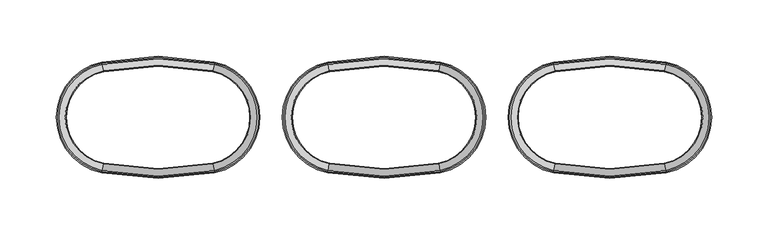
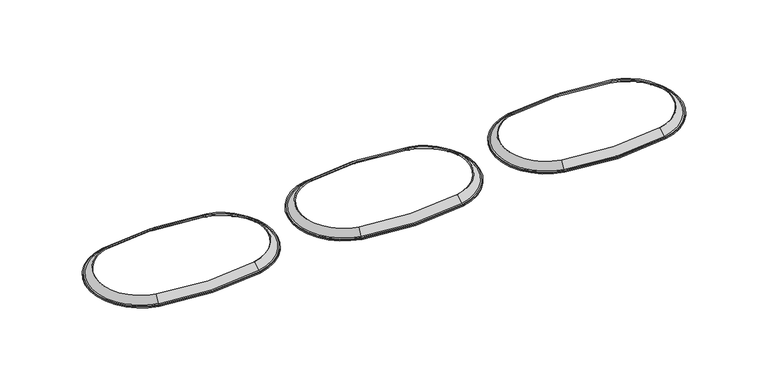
"""IFC4 building model written with IfcOpenShell, lengths in millimetres: proxy geometry, afs-LW-Track-150 : afs-LW-Track-150."""

from ifc_helpers import new_model, si_unit, point, frame, origin, place, context, project, spatial, polyline, circle_curve, ellipse_curve, trimmed, source, transform, mapped, element, save
from ifc_brep_helpers import plane_surface, cylinder_surface, revolved_surface, advanced_brep


def generic_models_b8dcf46f(model_context):
    return source(origin(), model_context, "Body", "AdvancedBrep", [
        advanced_brep(
        [(559.3576594, -46.3549295, 1.862006), (460.6423406, -46.3549295, 1.862006), (461.8277027, -40.4865309, 7.8489239), (558.1722973, -40.4865309, 7.8489239), (559.6338898, -47.7224696, 1.2), (460.3661102, -47.7224696, 1.2), (559.8939957, -49.0101813, 2.1883516), (460.1060043, -49.0101813, 2.1883516), (460.1060043, -49.0101813, 1.2), (559.8939957, -49.0101813, 1.2), (559.4941023, -47.0304204, 2.5870863), (460.5058977, -47.0304204, 2.5870863), (460.3153044, -47.9739947, 2.1883516), (559.6846956, -47.9739947, 2.1883516), (558.3122988, -41.1796395, 8.5560306), (461.6877012, -41.1796395, 8.5560306), (460.6423406, 46.3549295, 1.862006), (559.3576594, 46.3549295, 1.862006), (558.1722973, 40.4865309, 7.8489239), (461.8277027, 40.4865309, 7.8489239), (460.3661102, 47.7224696, 1.2), (559.6338898, 47.7224696, 1.2), (460.1060043, 49.0101813, 2.1883516), (559.8939957, 49.0101813, 2.1883516), (559.8939957, 49.0101813, 1.2), (460.1060043, 49.0101813, 1.2), (460.5058977, 47.0304204, 2.5870863), (559.4941023, 47.0304204, 2.5870863), (559.6846956, 47.9739947, 2.1883516), (460.3153044, 47.9739947, 2.1883516), (461.6877012, 41.1796395, 8.5560306), (558.3122988, 41.1796395, 8.5560306)],
        [
            (0, 1, circle_curve(frame((510.0, 198.0011326, 1.862006), z_axis=(0.0, 0.0, -1.0), x_axis=(-0.1979920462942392, -0.9802036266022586, 0.0)), 249.2911222)),
            (1, 2),
            (2, 3, circle_curve(frame((510.0, 198.0011326, 7.8489239), z_axis=(0.0, 0.0, 1.0), x_axis=(-0.1979920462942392, -0.9802036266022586, 0.0)), 243.3042043)),
            (3, 0),
            (4, 5, circle_curve(frame((510.0, 198.0011326, 1.2), z_axis=(0.0, 0.0, -1.0), x_axis=(-0.1979920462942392, -0.9802036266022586, 0.0)), 250.6862814)),
            (5, 1, circle_curve(frame((460.3203371, -47.9490794, 3.4883516), z_axis=(0.9802036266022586, -0.1979920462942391, 0.0), x_axis=(0.1979920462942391, 0.9802036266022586, 0.0)), 2.3)),
            (0, 4, circle_curve(frame((559.6796629, -47.9490794, 3.4883516), z_axis=(-0.9802036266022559, -0.19799204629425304, 0.0), x_axis=(-0.19799204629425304, 0.9802036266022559, 0.0)), 2.3)),
            (6, 7, circle_curve(frame((510.0, 198.0011326, 2.1883516), z_axis=(0.0, 0.0, -1.0), x_axis=(-0.1979920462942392, -0.9802036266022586, 0.0)), 252.0)),
            (7, 8),
            (8, 9, circle_curve(frame((510.0, 198.0011326, 1.2), z_axis=(0.0, 0.0, 1.0), x_axis=(-0.1979920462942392, -0.9802036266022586, 0.0)), 252.0)),
            (9, 6),
            (10, 11, circle_curve(frame((510.0, 198.0011326, 2.5870863), z_axis=(0.0, 0.0, -1.0), x_axis=(-0.1979920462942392, -0.9802036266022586, 0.0)), 249.9802554)),
            (11, 12, circle_curve(frame((460.3153044, -47.9739947, 3.5497172), z_axis=(-0.9802036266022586, 0.1979920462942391, 0.0), x_axis=(0.1979920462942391, 0.9802036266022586, 0.0)), 1.3613657)),
            (12, 13, circle_curve(frame((510.0, 198.0011326, 2.1883516), z_axis=(0.0, 0.0, 1.0), x_axis=(-0.1979920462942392, -0.9802036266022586, 0.0)), 250.9428863)),
            (13, 10, circle_curve(frame((559.6846956, -47.9739947, 3.5497172), z_axis=(0.9802036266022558, 0.197992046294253, 0.0), x_axis=(-0.197992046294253, 0.9802036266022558, 0.0)), 1.3613657)),
            (14, 15, circle_curve(frame((510.0, 198.0011326, 8.5560306), z_axis=(0.0, 0.0, -1.0), x_axis=(-0.1979920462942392, -0.9802036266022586, 0.0)), 244.0113111)),
            (15, 11),
            (10, 14),
            (2, 15),
            (14, 3),
            (16, 17, circle_curve(frame((510.0, -198.0011326, 1.862006), z_axis=(0.0, 0.0, -1.0), x_axis=(0.1979920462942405, 0.9802036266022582, 0.0)), 249.2911222)),
            (17, 18),
            (18, 19, circle_curve(frame((510.0, -198.0011326, 7.8489239), z_axis=(0.0, 0.0, 1.0), x_axis=(0.1979920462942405, 0.9802036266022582, 0.0)), 243.3042043)),
            (19, 16),
            (20, 21, circle_curve(frame((510.0, -198.0011326, 1.2), z_axis=(0.0, 0.0, -1.0), x_axis=(0.1979920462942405, 0.9802036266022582, 0.0)), 250.6862814)),
            (21, 17, circle_curve(frame((559.6796629, 47.9490794, 3.4883516), z_axis=(-0.9802036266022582, 0.19799204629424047, 0.0), x_axis=(-0.19799204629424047, -0.9802036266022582, 0.0)), 2.3)),
            (16, 20, circle_curve(frame((460.3203371, 47.9490794, 3.4883516), z_axis=(0.9802036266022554, 0.1979920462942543, 0.0), x_axis=(0.1979920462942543, -0.9802036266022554, 0.0)), 2.3)),
            (22, 23, circle_curve(frame((510.0, -198.0011326, 2.1883516), z_axis=(0.0, 0.0, -1.0), x_axis=(0.1979920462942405, 0.9802036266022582, 0.0)), 252.0)),
            (23, 24),
            (24, 25, circle_curve(frame((510.0, -198.0011326, 1.2), z_axis=(0.0, 0.0, 1.0), x_axis=(0.1979920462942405, 0.9802036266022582, 0.0)), 252.0)),
            (25, 22),
            (26, 27, circle_curve(frame((510.0, -198.0011326, 2.5870863), z_axis=(0.0, 0.0, -1.0), x_axis=(0.1979920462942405, 0.9802036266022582, 0.0)), 249.9802554)),
            (27, 28, circle_curve(frame((559.6846956, 47.9739947, 3.5497172), z_axis=(0.9802036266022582, -0.19799204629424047, 0.0), x_axis=(-0.19799204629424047, -0.9802036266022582, 0.0)), 1.3613657)),
            (28, 29, circle_curve(frame((510.0, -198.0011326, 2.1883516), z_axis=(0.0, 0.0, 1.0), x_axis=(0.1979920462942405, 0.9802036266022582, 0.0)), 250.9428863)),
            (29, 26, circle_curve(frame((460.3153044, 47.9739947, 3.5497172), z_axis=(-0.9802036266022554, -0.19799204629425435, 0.0), x_axis=(0.19799204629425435, -0.9802036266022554, 0.0)), 1.3613657)),
            (30, 31, circle_curve(frame((510.0, -198.0011326, 8.5560306), z_axis=(0.0, 0.0, -1.0), x_axis=(0.1979920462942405, 0.9802036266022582, 0.0)), 244.0113111)),
            (31, 27),
            (26, 30),
            (18, 31),
            (30, 19),
            (1, 16, circle_curve(frame((470.0056066, 0.0, 1.862006), z_axis=(0.0, 0.0, -1.0), x_axis=(-0.19799204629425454, 0.9802036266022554, 0.0)), 47.2911222)),
            (19, 2, circle_curve(frame((470.0056066, 0.0, 7.8489239), z_axis=(0.0, 0.0, 1.0), x_axis=(-0.19799204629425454, 0.9802036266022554, 0.0)), 41.3042043)),
            (5, 20, circle_curve(frame((470.0056066, 0.0, 1.2), z_axis=(0.0, 0.0, -1.0), x_axis=(-0.19799204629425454, 0.9802036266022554, 0.0)), 48.6862814)),
            (7, 22, circle_curve(frame((470.0056066, 0.0, 2.1883516), z_axis=(0.0, 0.0, -1.0), x_axis=(-0.19799204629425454, 0.9802036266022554, 0.0)), 50.0)),
            (25, 8, circle_curve(frame((470.0056066, 0.0, 1.2), z_axis=(0.0, 0.0, 1.0), x_axis=(-0.19799204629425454, 0.9802036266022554, 0.0)), 50.0)),
            (11, 26, circle_curve(frame((470.0056066, 0.0, 2.5870863), z_axis=(0.0, 0.0, -1.0), x_axis=(-0.19799204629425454, 0.9802036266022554, 0.0)), 47.9802554)),
            (29, 12, circle_curve(frame((470.0056066, 0.0, 2.1883516), z_axis=(0.0, 0.0, 1.0), x_axis=(-0.19799204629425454, 0.9802036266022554, 0.0)), 48.9428863)),
            (15, 30, circle_curve(frame((470.0056066, 0.0, 8.5560306), z_axis=(0.0, 0.0, -1.0), x_axis=(-0.19799204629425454, 0.9802036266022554, 0.0)), 42.0113111)),
            (17, 0, circle_curve(frame((549.9943934, 0.0, 1.862006), z_axis=(0.0, 0.0, -1.0), x_axis=(0.19799204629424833, -0.9802036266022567, 0.0)), 47.2911222)),
            (3, 18, circle_curve(frame((549.9943934, 0.0, 7.8489239), z_axis=(0.0, 0.0, 1.0), x_axis=(0.19799204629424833, -0.9802036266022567, 0.0)), 41.3042043)),
            (21, 4, circle_curve(frame((549.9943934, 0.0, 1.2), z_axis=(0.0, 0.0, -1.0), x_axis=(0.19799204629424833, -0.9802036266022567, 0.0)), 48.6862814)),
            (24, 9, circle_curve(frame((549.9943934, 0.0, 1.2), z_axis=(0.0, 0.0, -1.0), x_axis=(0.19799204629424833, -0.9802036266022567, 0.0)), 50.0)),
            (23, 6, circle_curve(frame((549.9943934, 0.0, 2.1883516), z_axis=(0.0, 0.0, -1.0), x_axis=(0.19799204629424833, -0.9802036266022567, 0.0)), 50.0)),
            (28, 13, circle_curve(frame((549.9943934, 0.0, 2.1883516), z_axis=(0.0, 0.0, -1.0), x_axis=(0.19799204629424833, -0.9802036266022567, 0.0)), 48.9428863)),
            (27, 10, circle_curve(frame((549.9943934, 0.0, 2.5870863), z_axis=(0.0, 0.0, -1.0), x_axis=(0.19799204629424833, -0.9802036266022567, 0.0)), 47.9802554)),
            (31, 14, circle_curve(frame((549.9943934, 0.0, 8.5560306), z_axis=(0.0, 0.0, -1.0), x_axis=(0.19799204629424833, -0.9802036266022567, 0.0)), 42.0113111)),
        ],
        [
            revolved_surface(polyline([(461.8277027, -40.4865309, 7.8489239), (460.6423406, -46.3549295, 1.862006)]), (510.0, 198.0011326, 1.2), (0.0, 0.0, 1.0)),
            revolved_surface(trimmed(ellipse_curve(frame((460.3203371, -47.9490794, 3.4883516), z_axis=(-0.9802036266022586, 0.1979920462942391, 0.0), x_axis=(0.1979920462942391, 0.9802036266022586, 0.0)), 2.3, 2.3), [point((460.6423406, -46.3549295, 1.862006))], [point((460.3661102, -47.7224696, 1.2))], True, "CARTESIAN"), (510.0, 198.0011326, 1.2), (0.0, 0.0, 1.0)),
            cylinder_surface(frame((510.0, 198.0011326, 1.2), z_axis=(0.0, 0.0, 1.0), x_axis=(-0.1979920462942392, -0.9802036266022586, 0.0)), 252.0),
            revolved_surface(trimmed(ellipse_curve(frame((460.3153044, -47.9739947, 3.5497172), z_axis=(0.9802036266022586, -0.1979920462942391, 0.0), x_axis=(0.1979920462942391, 0.9802036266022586, 0.0)), 1.3613657, 1.3613657), [point((460.3153044, -47.9739947, 2.1883516))], [point((460.5058977, -47.0304204, 2.5870863))], True, "CARTESIAN"), (510.0, 198.0011326, 1.2), (0.0, 0.0, 1.0)),
            revolved_surface(polyline([(460.5058977, -47.0304204, 2.5870863), (461.6877012, -41.1796395, 8.5560306)]), (510.0, 198.0011326, 1.2), (0.0, 0.0, 1.0)),
            revolved_surface(polyline([(461.6877012, -41.1796395, 8.5560306), (461.8277027, -40.4865309, 7.8489239)]), (510.0, 198.0011326, 1.2), (0.0, 0.0, 1.0)),
            revolved_surface(polyline([(558.1722973, 40.4865309, 7.8489239), (559.3576594, 46.3549295, 1.862006)]), (510.0, -198.0011326, 1.2), (0.0, 0.0, 1.0)),
            revolved_surface(trimmed(ellipse_curve(frame((559.6796629, 47.9490794, 3.4883516), z_axis=(0.9802036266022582, -0.19799204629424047, 0.0), x_axis=(-0.19799204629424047, -0.9802036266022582, 0.0)), 2.3, 2.3), [point((559.3576594, 46.3549295, 1.862006))], [point((559.6338898, 47.7224696, 1.2))], True, "CARTESIAN"), (510.0, -198.0011326, 1.2), (0.0, 0.0, 1.0)),
            cylinder_surface(frame((510.0, -198.0011326, 1.2), z_axis=(0.0, 0.0, 1.0), x_axis=(0.1979920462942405, 0.9802036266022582, 0.0)), 252.0),
            revolved_surface(trimmed(ellipse_curve(frame((559.6846956, 47.9739947, 3.5497172), z_axis=(-0.9802036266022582, 0.19799204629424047, 0.0), x_axis=(-0.19799204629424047, -0.9802036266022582, 0.0)), 1.3613657, 1.3613657), [point((559.6846956, 47.9739947, 2.1883516))], [point((559.4941023, 47.0304204, 2.5870863))], True, "CARTESIAN"), (510.0, -198.0011326, 1.2), (0.0, 0.0, 1.0)),
            revolved_surface(polyline([(559.4941023, 47.0304204, 2.5870863), (558.3122988, 41.1796395, 8.5560306)]), (510.0, -198.0011326, 1.2), (0.0, 0.0, 1.0)),
            revolved_surface(polyline([(558.3122988, 41.1796395, 8.5560306), (558.1722973, 40.4865309, 7.8489239)]), (510.0, -198.0011326, 1.2), (0.0, 0.0, 1.0)),
            revolved_surface(polyline([(461.8277027, 40.4865309, 7.8489239), (460.6423406, 46.3549295, 1.862006)]), (470.0056066, 0.0, 1.2), (0.0, 0.0, 1.0)),
            revolved_surface(trimmed(ellipse_curve(frame((460.3203371, 47.9490794, 3.4883516), z_axis=(0.9802036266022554, 0.19799204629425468, 0.0), x_axis=(0.19799204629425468, -0.9802036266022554, 0.0)), 2.3, 2.3), [point((460.6423406, 46.3549295, 1.862006))], [point((460.3661102, 47.7224696, 1.2))], True, "CARTESIAN"), (470.0056066, 0.0, 1.2), (0.0, 0.0, 1.0)),
            cylinder_surface(frame((470.0056066, 0.0, 1.2), z_axis=(0.0, 0.0, 1.0), x_axis=(-0.19799204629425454, 0.9802036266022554, 0.0)), 50.0),
            revolved_surface(trimmed(ellipse_curve(frame((460.3153044, 47.9739947, 3.5497172), z_axis=(-0.9802036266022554, -0.19799204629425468, 0.0), x_axis=(0.19799204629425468, -0.9802036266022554, 0.0)), 1.3613657, 1.3613657), [point((460.3153044, 47.9739947, 2.1883516))], [point((460.5058977, 47.0304204, 2.5870863))], True, "CARTESIAN"), (470.0056066, 0.0, 1.2), (0.0, 0.0, 1.0)),
            revolved_surface(polyline([(460.5058977, 47.0304204, 2.5870863), (461.6877012, 41.1796395, 8.5560306)]), (470.0056066, 0.0, 1.2), (0.0, 0.0, 1.0)),
            revolved_surface(polyline([(461.6877012, 41.1796395, 8.5560306), (461.8277027, 40.4865309, 7.8489239)]), (470.0056066, 0.0, 1.2), (0.0, 0.0, 1.0)),
            revolved_surface(polyline([(558.1722973, -40.4865309, 7.8489239), (559.3576594, -46.3549295, 1.862006)]), (549.9943934, 0.0, 1.2), (0.0, 0.0, 1.0)),
            revolved_surface(trimmed(ellipse_curve(frame((559.6796629, -47.9490794, 3.4883516), z_axis=(-0.9802036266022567, -0.1979920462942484, 0.0), x_axis=(-0.1979920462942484, 0.9802036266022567, 0.0)), 2.3, 2.3), [point((559.3576594, -46.3549295, 1.862006))], [point((559.6338898, -47.7224696, 1.2))], True, "CARTESIAN"), (549.9943934, 0.0, 1.2), (0.0, 0.0, 1.0)),
            plane_surface(frame((549.9943934, 0.0, 1.2), z_axis=(0.0, 0.0, -1.0), x_axis=(0.19799204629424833, -0.9802036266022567, 0.0))),
            cylinder_surface(frame((549.9943934, 0.0, 1.2), z_axis=(0.0, 0.0, 1.0), x_axis=(0.19799204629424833, -0.9802036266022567, 0.0)), 50.0),
            plane_surface(frame((549.9943934, 0.0, 2.1883516), z_axis=(0.0, 0.0, 1.0), x_axis=(0.19799204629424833, -0.9802036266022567, 0.0))),
            revolved_surface(trimmed(ellipse_curve(frame((559.6846956, -47.9739947, 3.5497172), z_axis=(0.9802036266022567, 0.1979920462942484, 0.0), x_axis=(-0.1979920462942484, 0.9802036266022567, 0.0)), 1.3613657, 1.3613657), [point((559.6846956, -47.9739947, 2.1883516))], [point((559.4941023, -47.0304204, 2.5870863))], True, "CARTESIAN"), (549.9943934, 0.0, 1.2), (0.0, 0.0, 1.0)),
            revolved_surface(polyline([(559.4941023, -47.0304204, 2.5870863), (558.3122988, -41.1796395, 8.5560306)]), (549.9943934, 0.0, 1.2), (0.0, 0.0, 1.0)),
            revolved_surface(polyline([(558.3122988, -41.1796395, 8.5560306), (558.1722973, -40.4865309, 7.8489239)]), (549.9943934, 0.0, 1.2), (0.0, 0.0, 1.0)),
        ],
        [
            (0, [[1, 2, 3, 4]]),
            (1, [[5, 6, -1, 7]]),
            (2, [[8, 9, 10, 11]]),
            (3, [[12, 13, 14, 15]]),
            (4, [[16, 17, -12, 18]]),
            (5, [[-3, 19, -16, 20]]),
            (6, [[21, 22, 23, 24]]),
            (7, [[25, 26, -21, 27]]),
            (8, [[28, 29, 30, 31]]),
            (9, [[32, 33, 34, 35]]),
            (10, [[36, 37, -32, 38]]),
            (11, [[-23, 39, -36, 40]]),
            (12, [[41, -24, 42, -2]]),
            (13, [[43, -27, -41, -6]]),
            (14, [[44, -31, 45, -9]]),
            (15, [[46, -35, 47, -13]]),
            (16, [[48, -38, -46, -17]]),
            (17, [[-42, -40, -48, -19]]),
            (18, [[49, -4, 50, -22]]),
            (19, [[51, -7, -49, -26]]),
            (20, [[52, -10, -45, -30], [-25, -43, -5, -51]]),
            (21, [[53, -11, -52, -29]]),
            (22, [[-28, -44, -8, -53], [54, -14, -47, -34]]),
            (23, [[55, -15, -54, -33]]),
            (24, [[56, -18, -55, -37]]),
            (25, [[-50, -20, -56, -39]]),
        ],
    ),
        advanced_brep(
        [(359.3576594, -46.3549295, 1.862006), (260.6423406, -46.3549295, 1.862006), (261.8277027, -40.4865309, 7.8489239), (358.1722973, -40.4865309, 7.8489239), (359.6338898, -47.7224696, 1.2), (260.3661102, -47.7224696, 1.2), (359.8939957, -49.0101813, 2.1883516), (260.1060043, -49.0101813, 2.1883516), (260.1060043, -49.0101813, 1.2), (359.8939957, -49.0101813, 1.2), (359.4941023, -47.0304204, 2.5870863), (260.5058977, -47.0304204, 2.5870863), (260.3153044, -47.9739947, 2.1883516), (359.6846956, -47.9739947, 2.1883516), (358.3122988, -41.1796395, 8.5560306), (261.6877012, -41.1796395, 8.5560306), (260.6423406, 46.3549295, 1.862006), (359.3576594, 46.3549295, 1.862006), (358.1722973, 40.4865309, 7.8489239), (261.8277027, 40.4865309, 7.8489239), (260.3661102, 47.7224696, 1.2), (359.6338898, 47.7224696, 1.2), (260.1060043, 49.0101813, 2.1883516), (359.8939957, 49.0101813, 2.1883516), (359.8939957, 49.0101813, 1.2), (260.1060043, 49.0101813, 1.2), (260.5058977, 47.0304204, 2.5870863), (359.4941023, 47.0304204, 2.5870863), (359.6846956, 47.9739947, 2.1883516), (260.3153044, 47.9739947, 2.1883516), (261.6877012, 41.1796395, 8.5560306), (358.3122988, 41.1796395, 8.5560306)],
        [
            (0, 1, circle_curve(frame((310.0, 198.0011326, 1.862006), z_axis=(0.0, 0.0, -1.0), x_axis=(-0.1979920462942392, -0.9802036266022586, 0.0)), 249.2911222)),
            (1, 2),
            (2, 3, circle_curve(frame((310.0, 198.0011326, 7.8489239), z_axis=(0.0, 0.0, 1.0), x_axis=(-0.1979920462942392, -0.9802036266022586, 0.0)), 243.3042043)),
            (3, 0),
            (4, 5, circle_curve(frame((310.0, 198.0011326, 1.2), z_axis=(0.0, 0.0, -1.0), x_axis=(-0.1979920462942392, -0.9802036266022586, 0.0)), 250.6862814)),
            (5, 1, circle_curve(frame((260.3203371, -47.9490794, 3.4883516), z_axis=(0.9802036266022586, -0.1979920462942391, 0.0), x_axis=(0.1979920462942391, 0.9802036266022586, 0.0)), 2.3)),
            (0, 4, circle_curve(frame((359.6796629, -47.9490794, 3.4883516), z_axis=(-0.9802036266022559, -0.19799204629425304, 0.0), x_axis=(-0.19799204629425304, 0.9802036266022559, 0.0)), 2.3)),
            (6, 7, circle_curve(frame((310.0, 198.0011326, 2.1883516), z_axis=(0.0, 0.0, -1.0), x_axis=(-0.1979920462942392, -0.9802036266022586, 0.0)), 252.0)),
            (7, 8),
            (8, 9, circle_curve(frame((310.0, 198.0011326, 1.2), z_axis=(0.0, 0.0, 1.0), x_axis=(-0.1979920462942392, -0.9802036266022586, 0.0)), 252.0)),
            (9, 6),
            (10, 11, circle_curve(frame((310.0, 198.0011326, 2.5870863), z_axis=(0.0, 0.0, -1.0), x_axis=(-0.1979920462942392, -0.9802036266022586, 0.0)), 249.9802554)),
            (11, 12, circle_curve(frame((260.3153044, -47.9739947, 3.5497172), z_axis=(-0.9802036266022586, 0.1979920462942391, 0.0), x_axis=(0.1979920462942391, 0.9802036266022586, 0.0)), 1.3613657)),
            (12, 13, circle_curve(frame((310.0, 198.0011326, 2.1883516), z_axis=(0.0, 0.0, 1.0), x_axis=(-0.1979920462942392, -0.9802036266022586, 0.0)), 250.9428863)),
            (13, 10, circle_curve(frame((359.6846956, -47.9739947, 3.5497172), z_axis=(0.9802036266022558, 0.197992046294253, 0.0), x_axis=(-0.197992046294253, 0.9802036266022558, 0.0)), 1.3613657)),
            (14, 15, circle_curve(frame((310.0, 198.0011326, 8.5560306), z_axis=(0.0, 0.0, -1.0), x_axis=(-0.1979920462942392, -0.9802036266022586, 0.0)), 244.0113111)),
            (15, 11),
            (10, 14),
            (2, 15),
            (14, 3),
            (16, 17, circle_curve(frame((310.0, -198.0011326, 1.862006), z_axis=(0.0, 0.0, -1.0), x_axis=(0.1979920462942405, 0.9802036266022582, 0.0)), 249.2911222)),
            (17, 18),
            (18, 19, circle_curve(frame((310.0, -198.0011326, 7.8489239), z_axis=(0.0, 0.0, 1.0), x_axis=(0.1979920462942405, 0.9802036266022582, 0.0)), 243.3042043)),
            (19, 16),
            (20, 21, circle_curve(frame((310.0, -198.0011326, 1.2), z_axis=(0.0, 0.0, -1.0), x_axis=(0.1979920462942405, 0.9802036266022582, 0.0)), 250.6862814)),
            (21, 17, circle_curve(frame((359.6796629, 47.9490794, 3.4883516), z_axis=(-0.9802036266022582, 0.19799204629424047, 0.0), x_axis=(-0.19799204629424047, -0.9802036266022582, 0.0)), 2.3)),
            (16, 20, circle_curve(frame((260.3203371, 47.9490794, 3.4883516), z_axis=(0.9802036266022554, 0.1979920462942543, 0.0), x_axis=(0.1979920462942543, -0.9802036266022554, 0.0)), 2.3)),
            (22, 23, circle_curve(frame((310.0, -198.0011326, 2.1883516), z_axis=(0.0, 0.0, -1.0), x_axis=(0.1979920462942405, 0.9802036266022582, 0.0)), 252.0)),
            (23, 24),
            (24, 25, circle_curve(frame((310.0, -198.0011326, 1.2), z_axis=(0.0, 0.0, 1.0), x_axis=(0.1979920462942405, 0.9802036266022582, 0.0)), 252.0)),
            (25, 22),
            (26, 27, circle_curve(frame((310.0, -198.0011326, 2.5870863), z_axis=(0.0, 0.0, -1.0), x_axis=(0.1979920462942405, 0.9802036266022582, 0.0)), 249.9802554)),
            (27, 28, circle_curve(frame((359.6846956, 47.9739947, 3.5497172), z_axis=(0.9802036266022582, -0.19799204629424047, 0.0), x_axis=(-0.19799204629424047, -0.9802036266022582, 0.0)), 1.3613657)),
            (28, 29, circle_curve(frame((310.0, -198.0011326, 2.1883516), z_axis=(0.0, 0.0, 1.0), x_axis=(0.1979920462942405, 0.9802036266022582, 0.0)), 250.9428863)),
            (29, 26, circle_curve(frame((260.3153044, 47.9739947, 3.5497172), z_axis=(-0.9802036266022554, -0.19799204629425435, 0.0), x_axis=(0.19799204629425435, -0.9802036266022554, 0.0)), 1.3613657)),
            (30, 31, circle_curve(frame((310.0, -198.0011326, 8.5560306), z_axis=(0.0, 0.0, -1.0), x_axis=(0.1979920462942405, 0.9802036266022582, 0.0)), 244.0113111)),
            (31, 27),
            (26, 30),
            (18, 31),
            (30, 19),
            (1, 16, circle_curve(frame((270.0056066, 0.0, 1.862006), z_axis=(0.0, 0.0, -1.0), x_axis=(-0.19799204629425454, 0.9802036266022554, 0.0)), 47.2911222)),
            (19, 2, circle_curve(frame((270.0056066, 0.0, 7.8489239), z_axis=(0.0, 0.0, 1.0), x_axis=(-0.19799204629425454, 0.9802036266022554, 0.0)), 41.3042043)),
            (5, 20, circle_curve(frame((270.0056066, 0.0, 1.2), z_axis=(0.0, 0.0, -1.0), x_axis=(-0.19799204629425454, 0.9802036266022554, 0.0)), 48.6862814)),
            (7, 22, circle_curve(frame((270.0056066, 0.0, 2.1883516), z_axis=(0.0, 0.0, -1.0), x_axis=(-0.19799204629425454, 0.9802036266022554, 0.0)), 50.0)),
            (25, 8, circle_curve(frame((270.0056066, 0.0, 1.2), z_axis=(0.0, 0.0, 1.0), x_axis=(-0.19799204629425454, 0.9802036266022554, 0.0)), 50.0)),
            (11, 26, circle_curve(frame((270.0056066, 0.0, 2.5870863), z_axis=(0.0, 0.0, -1.0), x_axis=(-0.19799204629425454, 0.9802036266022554, 0.0)), 47.9802554)),
            (29, 12, circle_curve(frame((270.0056066, 0.0, 2.1883516), z_axis=(0.0, 0.0, 1.0), x_axis=(-0.19799204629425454, 0.9802036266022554, 0.0)), 48.9428863)),
            (15, 30, circle_curve(frame((270.0056066, 0.0, 8.5560306), z_axis=(0.0, 0.0, -1.0), x_axis=(-0.19799204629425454, 0.9802036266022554, 0.0)), 42.0113111)),
            (17, 0, circle_curve(frame((349.9943934, 0.0, 1.862006), z_axis=(0.0, 0.0, -1.0), x_axis=(0.19799204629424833, -0.9802036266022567, 0.0)), 47.2911222)),
            (3, 18, circle_curve(frame((349.9943934, 0.0, 7.8489239), z_axis=(0.0, 0.0, 1.0), x_axis=(0.19799204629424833, -0.9802036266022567, 0.0)), 41.3042043)),
            (21, 4, circle_curve(frame((349.9943934, 0.0, 1.2), z_axis=(0.0, 0.0, -1.0), x_axis=(0.19799204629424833, -0.9802036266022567, 0.0)), 48.6862814)),
            (24, 9, circle_curve(frame((349.9943934, 0.0, 1.2), z_axis=(0.0, 0.0, -1.0), x_axis=(0.19799204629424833, -0.9802036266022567, 0.0)), 50.0)),
            (23, 6, circle_curve(frame((349.9943934, 0.0, 2.1883516), z_axis=(0.0, 0.0, -1.0), x_axis=(0.19799204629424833, -0.9802036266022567, 0.0)), 50.0)),
            (28, 13, circle_curve(frame((349.9943934, 0.0, 2.1883516), z_axis=(0.0, 0.0, -1.0), x_axis=(0.19799204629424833, -0.9802036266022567, 0.0)), 48.9428863)),
            (27, 10, circle_curve(frame((349.9943934, 0.0, 2.5870863), z_axis=(0.0, 0.0, -1.0), x_axis=(0.19799204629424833, -0.9802036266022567, 0.0)), 47.9802554)),
            (31, 14, circle_curve(frame((349.9943934, 0.0, 8.5560306), z_axis=(0.0, 0.0, -1.0), x_axis=(0.19799204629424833, -0.9802036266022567, 0.0)), 42.0113111)),
        ],
        [
            revolved_surface(polyline([(261.8277027, -40.4865309, 7.8489239), (260.6423406, -46.3549295, 1.862006)]), (310.0, 198.0011326, 1.2), (0.0, 0.0, 1.0)),
            revolved_surface(trimmed(ellipse_curve(frame((260.3203371, -47.9490794, 3.4883516), z_axis=(-0.9802036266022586, 0.1979920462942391, 0.0), x_axis=(0.1979920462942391, 0.9802036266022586, 0.0)), 2.3, 2.3), [point((260.6423406, -46.3549295, 1.862006))], [point((260.3661102, -47.7224696, 1.2))], True, "CARTESIAN"), (310.0, 198.0011326, 1.2), (0.0, 0.0, 1.0)),
            cylinder_surface(frame((310.0, 198.0011326, 1.2), z_axis=(0.0, 0.0, 1.0), x_axis=(-0.1979920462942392, -0.9802036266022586, 0.0)), 252.0),
            revolved_surface(trimmed(ellipse_curve(frame((260.3153044, -47.9739947, 3.5497172), z_axis=(0.9802036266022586, -0.1979920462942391, 0.0), x_axis=(0.1979920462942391, 0.9802036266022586, 0.0)), 1.3613657, 1.3613657), [point((260.3153044, -47.9739947, 2.1883516))], [point((260.5058977, -47.0304204, 2.5870863))], True, "CARTESIAN"), (310.0, 198.0011326, 1.2), (0.0, 0.0, 1.0)),
            revolved_surface(polyline([(260.5058977, -47.0304204, 2.5870863), (261.6877012, -41.1796395, 8.5560306)]), (310.0, 198.0011326, 1.2), (0.0, 0.0, 1.0)),
            revolved_surface(polyline([(261.6877012, -41.1796395, 8.5560306), (261.8277027, -40.4865309, 7.8489239)]), (310.0, 198.0011326, 1.2), (0.0, 0.0, 1.0)),
            revolved_surface(polyline([(358.1722973, 40.4865309, 7.8489239), (359.3576594, 46.3549295, 1.862006)]), (310.0, -198.0011326, 1.2), (0.0, 0.0, 1.0)),
            revolved_surface(trimmed(ellipse_curve(frame((359.6796629, 47.9490794, 3.4883516), z_axis=(0.9802036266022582, -0.19799204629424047, 0.0), x_axis=(-0.19799204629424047, -0.9802036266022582, 0.0)), 2.3, 2.3), [point((359.3576594, 46.3549295, 1.862006))], [point((359.6338898, 47.7224696, 1.2))], True, "CARTESIAN"), (310.0, -198.0011326, 1.2), (0.0, 0.0, 1.0)),
            cylinder_surface(frame((310.0, -198.0011326, 1.2), z_axis=(0.0, 0.0, 1.0), x_axis=(0.1979920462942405, 0.9802036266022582, 0.0)), 252.0),
            revolved_surface(trimmed(ellipse_curve(frame((359.6846956, 47.9739947, 3.5497172), z_axis=(-0.9802036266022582, 0.19799204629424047, 0.0), x_axis=(-0.19799204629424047, -0.9802036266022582, 0.0)), 1.3613657, 1.3613657), [point((359.6846956, 47.9739947, 2.1883516))], [point((359.4941023, 47.0304204, 2.5870863))], True, "CARTESIAN"), (310.0, -198.0011326, 1.2), (0.0, 0.0, 1.0)),
            revolved_surface(polyline([(359.4941023, 47.0304204, 2.5870863), (358.3122988, 41.1796395, 8.5560306)]), (310.0, -198.0011326, 1.2), (0.0, 0.0, 1.0)),
            revolved_surface(polyline([(358.3122988, 41.1796395, 8.5560306), (358.1722973, 40.4865309, 7.8489239)]), (310.0, -198.0011326, 1.2), (0.0, 0.0, 1.0)),
            revolved_surface(polyline([(261.8277027, 40.4865309, 7.8489239), (260.6423406, 46.3549295, 1.862006)]), (270.0056066, 0.0, 1.2), (0.0, 0.0, 1.0)),
            revolved_surface(trimmed(ellipse_curve(frame((260.3203371, 47.9490794, 3.4883516), z_axis=(0.9802036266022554, 0.19799204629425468, 0.0), x_axis=(0.19799204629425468, -0.9802036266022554, 0.0)), 2.3, 2.3), [point((260.6423406, 46.3549295, 1.862006))], [point((260.3661102, 47.7224696, 1.2))], True, "CARTESIAN"), (270.0056066, 0.0, 1.2), (0.0, 0.0, 1.0)),
            cylinder_surface(frame((270.0056066, 0.0, 1.2), z_axis=(0.0, 0.0, 1.0), x_axis=(-0.19799204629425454, 0.9802036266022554, 0.0)), 50.0),
            revolved_surface(trimmed(ellipse_curve(frame((260.3153044, 47.9739947, 3.5497172), z_axis=(-0.9802036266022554, -0.19799204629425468, 0.0), x_axis=(0.19799204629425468, -0.9802036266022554, 0.0)), 1.3613657, 1.3613657), [point((260.3153044, 47.9739947, 2.1883516))], [point((260.5058977, 47.0304204, 2.5870863))], True, "CARTESIAN"), (270.0056066, 0.0, 1.2), (0.0, 0.0, 1.0)),
            revolved_surface(polyline([(260.5058977, 47.0304204, 2.5870863), (261.6877012, 41.1796395, 8.5560306)]), (270.0056066, 0.0, 1.2), (0.0, 0.0, 1.0)),
            revolved_surface(polyline([(261.6877012, 41.1796395, 8.5560306), (261.8277027, 40.4865309, 7.8489239)]), (270.0056066, 0.0, 1.2), (0.0, 0.0, 1.0)),
            revolved_surface(polyline([(358.1722973, -40.4865309, 7.8489239), (359.3576594, -46.3549295, 1.862006)]), (349.9943934, 0.0, 1.2), (0.0, 0.0, 1.0)),
            revolved_surface(trimmed(ellipse_curve(frame((359.6796629, -47.9490794, 3.4883516), z_axis=(-0.9802036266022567, -0.1979920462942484, 0.0), x_axis=(-0.1979920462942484, 0.9802036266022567, 0.0)), 2.3, 2.3), [point((359.3576594, -46.3549295, 1.862006))], [point((359.6338898, -47.7224696, 1.2))], True, "CARTESIAN"), (349.9943934, 0.0, 1.2), (0.0, 0.0, 1.0)),
            plane_surface(frame((349.9943934, 0.0, 1.2), z_axis=(0.0, 0.0, -1.0), x_axis=(0.19799204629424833, -0.9802036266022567, 0.0))),
            cylinder_surface(frame((349.9943934, 0.0, 1.2), z_axis=(0.0, 0.0, 1.0), x_axis=(0.19799204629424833, -0.9802036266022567, 0.0)), 50.0),
            plane_surface(frame((349.9943934, 0.0, 2.1883516), z_axis=(0.0, 0.0, 1.0), x_axis=(0.19799204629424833, -0.9802036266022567, 0.0))),
            revolved_surface(trimmed(ellipse_curve(frame((359.6846956, -47.9739947, 3.5497172), z_axis=(0.9802036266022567, 0.1979920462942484, 0.0), x_axis=(-0.1979920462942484, 0.9802036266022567, 0.0)), 1.3613657, 1.3613657), [point((359.6846956, -47.9739947, 2.1883516))], [point((359.4941023, -47.0304204, 2.5870863))], True, "CARTESIAN"), (349.9943934, 0.0, 1.2), (0.0, 0.0, 1.0)),
            revolved_surface(polyline([(359.4941023, -47.0304204, 2.5870863), (358.3122988, -41.1796395, 8.5560306)]), (349.9943934, 0.0, 1.2), (0.0, 0.0, 1.0)),
            revolved_surface(polyline([(358.3122988, -41.1796395, 8.5560306), (358.1722973, -40.4865309, 7.8489239)]), (349.9943934, 0.0, 1.2), (0.0, 0.0, 1.0)),
        ],
        [
            (0, [[1, 2, 3, 4]]),
            (1, [[5, 6, -1, 7]]),
            (2, [[8, 9, 10, 11]]),
            (3, [[12, 13, 14, 15]]),
            (4, [[16, 17, -12, 18]]),
            (5, [[-3, 19, -16, 20]]),
            (6, [[21, 22, 23, 24]]),
            (7, [[25, 26, -21, 27]]),
            (8, [[28, 29, 30, 31]]),
            (9, [[32, 33, 34, 35]]),
            (10, [[36, 37, -32, 38]]),
            (11, [[-23, 39, -36, 40]]),
            (12, [[41, -24, 42, -2]]),
            (13, [[43, -27, -41, -6]]),
            (14, [[44, -31, 45, -9]]),
            (15, [[46, -35, 47, -13]]),
            (16, [[48, -38, -46, -17]]),
            (17, [[-42, -40, -48, -19]]),
            (18, [[49, -4, 50, -22]]),
            (19, [[51, -7, -49, -26]]),
            (20, [[52, -10, -45, -30], [-25, -43, -5, -51]]),
            (21, [[53, -11, -52, -29]]),
            (22, [[-28, -44, -8, -53], [54, -14, -47, -34]]),
            (23, [[55, -15, -54, -33]]),
            (24, [[56, -18, -55, -37]]),
            (25, [[-50, -20, -56, -39]]),
        ],
    ),
        advanced_brep(
        [(159.3576594, -46.3549295, 1.862006), (60.6423406, -46.3549295, 1.862006), (61.8277027, -40.4865309, 7.8489239), (158.1722973, -40.4865309, 7.8489239), (159.6338898, -47.7224696, 1.2), (60.3661102, -47.7224696, 1.2), (159.8939957, -49.0101813, 2.1883516), (60.1060043, -49.0101813, 2.1883516), (60.1060043, -49.0101813, 1.2), (159.8939957, -49.0101813, 1.2), (159.4941023, -47.0304204, 2.5870863), (60.5058977, -47.0304204, 2.5870863), (60.3153044, -47.9739947, 2.1883516), (159.6846956, -47.9739947, 2.1883516), (158.3122988, -41.1796395, 8.5560306), (61.6877012, -41.1796395, 8.5560306), (60.6423406, 46.3549295, 1.862006), (159.3576594, 46.3549295, 1.862006), (158.1722973, 40.4865309, 7.8489239), (61.8277027, 40.4865309, 7.8489239), (60.3661102, 47.7224696, 1.2), (159.6338898, 47.7224696, 1.2), (60.1060043, 49.0101813, 2.1883516), (159.8939957, 49.0101813, 2.1883516), (159.8939957, 49.0101813, 1.2), (60.1060043, 49.0101813, 1.2), (60.5058977, 47.0304204, 2.5870863), (159.4941023, 47.0304204, 2.5870863), (159.6846956, 47.9739947, 2.1883516), (60.3153044, 47.9739947, 2.1883516), (61.6877012, 41.1796395, 8.5560306), (158.3122988, 41.1796395, 8.5560306)],
        [
            (0, 1, circle_curve(frame((110.0, 198.0011326, 1.862006), z_axis=(0.0, 0.0, -1.0), x_axis=(-0.1979920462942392, -0.9802036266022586, 0.0)), 249.2911222)),
            (1, 2),
            (2, 3, circle_curve(frame((110.0, 198.0011326, 7.8489239), z_axis=(0.0, 0.0, 1.0), x_axis=(-0.1979920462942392, -0.9802036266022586, 0.0)), 243.3042043)),
            (3, 0),
            (4, 5, circle_curve(frame((110.0, 198.0011326, 1.2), z_axis=(0.0, 0.0, -1.0), x_axis=(-0.1979920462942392, -0.9802036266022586, 0.0)), 250.6862814)),
            (5, 1, circle_curve(frame((60.3203371, -47.9490794, 3.4883516), z_axis=(0.9802036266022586, -0.1979920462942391, 0.0), x_axis=(0.1979920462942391, 0.9802036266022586, 0.0)), 2.3)),
            (0, 4, circle_curve(frame((159.6796629, -47.9490794, 3.4883516), z_axis=(-0.9802036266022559, -0.19799204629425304, 0.0), x_axis=(-0.19799204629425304, 0.9802036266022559, 0.0)), 2.3)),
            (6, 7, circle_curve(frame((110.0, 198.0011326, 2.1883516), z_axis=(0.0, 0.0, -1.0), x_axis=(-0.1979920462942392, -0.9802036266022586, 0.0)), 252.0)),
            (7, 8),
            (8, 9, circle_curve(frame((110.0, 198.0011326, 1.2), z_axis=(0.0, 0.0, 1.0), x_axis=(-0.1979920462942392, -0.9802036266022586, 0.0)), 252.0)),
            (9, 6),
            (10, 11, circle_curve(frame((110.0, 198.0011326, 2.5870863), z_axis=(0.0, 0.0, -1.0), x_axis=(-0.1979920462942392, -0.9802036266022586, 0.0)), 249.9802554)),
            (11, 12, circle_curve(frame((60.3153044, -47.9739947, 3.5497172), z_axis=(-0.9802036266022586, 0.1979920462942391, 0.0), x_axis=(0.1979920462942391, 0.9802036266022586, 0.0)), 1.3613657)),
            (12, 13, circle_curve(frame((110.0, 198.0011326, 2.1883516), z_axis=(0.0, 0.0, 1.0), x_axis=(-0.1979920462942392, -0.9802036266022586, 0.0)), 250.9428863)),
            (13, 10, circle_curve(frame((159.6846956, -47.9739947, 3.5497172), z_axis=(0.9802036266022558, 0.197992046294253, 0.0), x_axis=(-0.197992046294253, 0.9802036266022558, 0.0)), 1.3613657)),
            (14, 15, circle_curve(frame((110.0, 198.0011326, 8.5560306), z_axis=(0.0, 0.0, -1.0), x_axis=(-0.1979920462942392, -0.9802036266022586, 0.0)), 244.0113111)),
            (15, 11),
            (10, 14),
            (2, 15),
            (14, 3),
            (16, 17, circle_curve(frame((110.0, -198.0011326, 1.862006), z_axis=(0.0, 0.0, -1.0), x_axis=(0.1979920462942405, 0.9802036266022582, 0.0)), 249.2911222)),
            (17, 18),
            (18, 19, circle_curve(frame((110.0, -198.0011326, 7.8489239), z_axis=(0.0, 0.0, 1.0), x_axis=(0.1979920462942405, 0.9802036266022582, 0.0)), 243.3042043)),
            (19, 16),
            (20, 21, circle_curve(frame((110.0, -198.0011326, 1.2), z_axis=(0.0, 0.0, -1.0), x_axis=(0.1979920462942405, 0.9802036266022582, 0.0)), 250.6862814)),
            (21, 17, circle_curve(frame((159.6796629, 47.9490794, 3.4883516), z_axis=(-0.9802036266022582, 0.19799204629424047, 0.0), x_axis=(-0.19799204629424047, -0.9802036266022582, 0.0)), 2.3)),
            (16, 20, circle_curve(frame((60.3203371, 47.9490794, 3.4883516), z_axis=(0.9802036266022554, 0.1979920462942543, 0.0), x_axis=(0.1979920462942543, -0.9802036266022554, 0.0)), 2.3)),
            (22, 23, circle_curve(frame((110.0, -198.0011326, 2.1883516), z_axis=(0.0, 0.0, -1.0), x_axis=(0.1979920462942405, 0.9802036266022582, 0.0)), 252.0)),
            (23, 24),
            (24, 25, circle_curve(frame((110.0, -198.0011326, 1.2), z_axis=(0.0, 0.0, 1.0), x_axis=(0.1979920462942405, 0.9802036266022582, 0.0)), 252.0)),
            (25, 22),
            (26, 27, circle_curve(frame((110.0, -198.0011326, 2.5870863), z_axis=(0.0, 0.0, -1.0), x_axis=(0.1979920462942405, 0.9802036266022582, 0.0)), 249.9802554)),
            (27, 28, circle_curve(frame((159.6846956, 47.9739947, 3.5497172), z_axis=(0.9802036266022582, -0.19799204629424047, 0.0), x_axis=(-0.19799204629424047, -0.9802036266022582, 0.0)), 1.3613657)),
            (28, 29, circle_curve(frame((110.0, -198.0011326, 2.1883516), z_axis=(0.0, 0.0, 1.0), x_axis=(0.1979920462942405, 0.9802036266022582, 0.0)), 250.9428863)),
            (29, 26, circle_curve(frame((60.3153044, 47.9739947, 3.5497172), z_axis=(-0.9802036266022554, -0.19799204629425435, 0.0), x_axis=(0.19799204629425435, -0.9802036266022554, 0.0)), 1.3613657)),
            (30, 31, circle_curve(frame((110.0, -198.0011326, 8.5560306), z_axis=(0.0, 0.0, -1.0), x_axis=(0.1979920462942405, 0.9802036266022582, 0.0)), 244.0113111)),
            (31, 27),
            (26, 30),
            (18, 31),
            (30, 19),
            (1, 16, circle_curve(frame((70.0056066, 0.0, 1.862006), z_axis=(0.0, 0.0, -1.0), x_axis=(-0.19799204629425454, 0.9802036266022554, 0.0)), 47.2911222)),
            (19, 2, circle_curve(frame((70.0056066, 0.0, 7.8489239), z_axis=(0.0, 0.0, 1.0), x_axis=(-0.19799204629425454, 0.9802036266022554, 0.0)), 41.3042043)),
            (5, 20, circle_curve(frame((70.0056066, 0.0, 1.2), z_axis=(0.0, 0.0, -1.0), x_axis=(-0.19799204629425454, 0.9802036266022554, 0.0)), 48.6862814)),
            (7, 22, circle_curve(frame((70.0056066, 0.0, 2.1883516), z_axis=(0.0, 0.0, -1.0), x_axis=(-0.19799204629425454, 0.9802036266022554, 0.0)), 50.0)),
            (25, 8, circle_curve(frame((70.0056066, 0.0, 1.2), z_axis=(0.0, 0.0, 1.0), x_axis=(-0.19799204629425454, 0.9802036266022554, 0.0)), 50.0)),
            (11, 26, circle_curve(frame((70.0056066, 0.0, 2.5870863), z_axis=(0.0, 0.0, -1.0), x_axis=(-0.19799204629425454, 0.9802036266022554, 0.0)), 47.9802554)),
            (29, 12, circle_curve(frame((70.0056066, 0.0, 2.1883516), z_axis=(0.0, 0.0, 1.0), x_axis=(-0.19799204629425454, 0.9802036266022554, 0.0)), 48.9428863)),
            (15, 30, circle_curve(frame((70.0056066, 0.0, 8.5560306), z_axis=(0.0, 0.0, -1.0), x_axis=(-0.19799204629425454, 0.9802036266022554, 0.0)), 42.0113111)),
            (17, 0, circle_curve(frame((149.9943934, 0.0, 1.862006), z_axis=(0.0, 0.0, -1.0), x_axis=(0.19799204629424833, -0.9802036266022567, 0.0)), 47.2911222)),
            (3, 18, circle_curve(frame((149.9943934, 0.0, 7.8489239), z_axis=(0.0, 0.0, 1.0), x_axis=(0.19799204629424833, -0.9802036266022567, 0.0)), 41.3042043)),
            (21, 4, circle_curve(frame((149.9943934, 0.0, 1.2), z_axis=(0.0, 0.0, -1.0), x_axis=(0.19799204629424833, -0.9802036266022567, 0.0)), 48.6862814)),
            (24, 9, circle_curve(frame((149.9943934, 0.0, 1.2), z_axis=(0.0, 0.0, -1.0), x_axis=(0.19799204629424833, -0.9802036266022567, 0.0)), 50.0)),
            (23, 6, circle_curve(frame((149.9943934, 0.0, 2.1883516), z_axis=(0.0, 0.0, -1.0), x_axis=(0.19799204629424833, -0.9802036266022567, 0.0)), 50.0)),
            (28, 13, circle_curve(frame((149.9943934, 0.0, 2.1883516), z_axis=(0.0, 0.0, -1.0), x_axis=(0.19799204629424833, -0.9802036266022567, 0.0)), 48.9428863)),
            (27, 10, circle_curve(frame((149.9943934, 0.0, 2.5870863), z_axis=(0.0, 0.0, -1.0), x_axis=(0.19799204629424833, -0.9802036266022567, 0.0)), 47.9802554)),
            (31, 14, circle_curve(frame((149.9943934, 0.0, 8.5560306), z_axis=(0.0, 0.0, -1.0), x_axis=(0.19799204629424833, -0.9802036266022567, 0.0)), 42.0113111)),
        ],
        [
            revolved_surface(polyline([(61.8277027, -40.4865309, 7.8489239), (60.6423406, -46.3549295, 1.862006)]), (110.0, 198.0011326, 1.2), (0.0, 0.0, 1.0)),
            revolved_surface(trimmed(ellipse_curve(frame((60.3203371, -47.9490794, 3.4883516), z_axis=(-0.9802036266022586, 0.1979920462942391, 0.0), x_axis=(0.1979920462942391, 0.9802036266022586, 0.0)), 2.3, 2.3), [point((60.6423406, -46.3549295, 1.862006))], [point((60.3661102, -47.7224696, 1.2))], True, "CARTESIAN"), (110.0, 198.0011326, 1.2), (0.0, 0.0, 1.0)),
            cylinder_surface(frame((110.0, 198.0011326, 1.2), z_axis=(0.0, 0.0, 1.0), x_axis=(-0.1979920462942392, -0.9802036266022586, 0.0)), 252.0),
            revolved_surface(trimmed(ellipse_curve(frame((60.3153044, -47.9739947, 3.5497172), z_axis=(0.9802036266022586, -0.1979920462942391, 0.0), x_axis=(0.1979920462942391, 0.9802036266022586, 0.0)), 1.3613657, 1.3613657), [point((60.3153044, -47.9739947, 2.1883516))], [point((60.5058977, -47.0304204, 2.5870863))], True, "CARTESIAN"), (110.0, 198.0011326, 1.2), (0.0, 0.0, 1.0)),
            revolved_surface(polyline([(60.5058977, -47.0304204, 2.5870863), (61.6877012, -41.1796395, 8.5560306)]), (110.0, 198.0011326, 1.2), (0.0, 0.0, 1.0)),
            revolved_surface(polyline([(61.6877012, -41.1796395, 8.5560306), (61.8277027, -40.4865309, 7.8489239)]), (110.0, 198.0011326, 1.2), (0.0, 0.0, 1.0)),
            revolved_surface(polyline([(158.1722973, 40.4865309, 7.8489239), (159.3576594, 46.3549295, 1.862006)]), (110.0, -198.0011326, 1.2), (0.0, 0.0, 1.0)),
            revolved_surface(trimmed(ellipse_curve(frame((159.6796629, 47.9490794, 3.4883516), z_axis=(0.9802036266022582, -0.19799204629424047, 0.0), x_axis=(-0.19799204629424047, -0.9802036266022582, 0.0)), 2.3, 2.3), [point((159.3576594, 46.3549295, 1.862006))], [point((159.6338898, 47.7224696, 1.2))], True, "CARTESIAN"), (110.0, -198.0011326, 1.2), (0.0, 0.0, 1.0)),
            cylinder_surface(frame((110.0, -198.0011326, 1.2), z_axis=(0.0, 0.0, 1.0), x_axis=(0.1979920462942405, 0.9802036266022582, 0.0)), 252.0),
            revolved_surface(trimmed(ellipse_curve(frame((159.6846956, 47.9739947, 3.5497172), z_axis=(-0.9802036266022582, 0.19799204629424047, 0.0), x_axis=(-0.19799204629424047, -0.9802036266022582, 0.0)), 1.3613657, 1.3613657), [point((159.6846956, 47.9739947, 2.1883516))], [point((159.4941023, 47.0304204, 2.5870863))], True, "CARTESIAN"), (110.0, -198.0011326, 1.2), (0.0, 0.0, 1.0)),
            revolved_surface(polyline([(159.4941023, 47.0304204, 2.5870863), (158.3122988, 41.1796395, 8.5560306)]), (110.0, -198.0011326, 1.2), (0.0, 0.0, 1.0)),
            revolved_surface(polyline([(158.3122988, 41.1796395, 8.5560306), (158.1722973, 40.4865309, 7.8489239)]), (110.0, -198.0011326, 1.2), (0.0, 0.0, 1.0)),
            revolved_surface(polyline([(61.8277027, 40.4865309, 7.8489239), (60.6423406, 46.3549295, 1.862006)]), (70.0056066, 0.0, 1.2), (0.0, 0.0, 1.0)),
            revolved_surface(trimmed(ellipse_curve(frame((60.3203371, 47.9490794, 3.4883516), z_axis=(0.9802036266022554, 0.19799204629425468, 0.0), x_axis=(0.19799204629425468, -0.9802036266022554, 0.0)), 2.3, 2.3), [point((60.6423406, 46.3549295, 1.862006))], [point((60.3661102, 47.7224696, 1.2))], True, "CARTESIAN"), (70.0056066, 0.0, 1.2), (0.0, 0.0, 1.0)),
            cylinder_surface(frame((70.0056066, 0.0, 1.2), z_axis=(0.0, 0.0, 1.0), x_axis=(-0.19799204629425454, 0.9802036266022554, 0.0)), 50.0),
            revolved_surface(trimmed(ellipse_curve(frame((60.3153044, 47.9739947, 3.5497172), z_axis=(-0.9802036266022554, -0.19799204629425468, 0.0), x_axis=(0.19799204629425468, -0.9802036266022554, 0.0)), 1.3613657, 1.3613657), [point((60.3153044, 47.9739947, 2.1883516))], [point((60.5058977, 47.0304204, 2.5870863))], True, "CARTESIAN"), (70.0056066, 0.0, 1.2), (0.0, 0.0, 1.0)),
            revolved_surface(polyline([(60.5058977, 47.0304204, 2.5870863), (61.6877012, 41.1796395, 8.5560306)]), (70.0056066, 0.0, 1.2), (0.0, 0.0, 1.0)),
            revolved_surface(polyline([(61.6877012, 41.1796395, 8.5560306), (61.8277027, 40.4865309, 7.8489239)]), (70.0056066, 0.0, 1.2), (0.0, 0.0, 1.0)),
            revolved_surface(polyline([(158.1722973, -40.4865309, 7.8489239), (159.3576594, -46.3549295, 1.862006)]), (149.9943934, 0.0, 1.2), (0.0, 0.0, 1.0)),
            revolved_surface(trimmed(ellipse_curve(frame((159.6796629, -47.9490794, 3.4883516), z_axis=(-0.9802036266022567, -0.1979920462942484, 0.0), x_axis=(-0.1979920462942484, 0.9802036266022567, 0.0)), 2.3, 2.3), [point((159.3576594, -46.3549295, 1.862006))], [point((159.6338898, -47.7224696, 1.2))], True, "CARTESIAN"), (149.9943934, 0.0, 1.2), (0.0, 0.0, 1.0)),
            plane_surface(frame((149.9943934, 0.0, 1.2), z_axis=(0.0, 0.0, -1.0), x_axis=(0.19799204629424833, -0.9802036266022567, 0.0))),
            cylinder_surface(frame((149.9943934, 0.0, 1.2), z_axis=(0.0, 0.0, 1.0), x_axis=(0.19799204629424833, -0.9802036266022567, 0.0)), 50.0),
            plane_surface(frame((149.9943934, 0.0, 2.1883516), z_axis=(0.0, 0.0, 1.0), x_axis=(0.19799204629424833, -0.9802036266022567, 0.0))),
            revolved_surface(trimmed(ellipse_curve(frame((159.6846956, -47.9739947, 3.5497172), z_axis=(0.9802036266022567, 0.1979920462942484, 0.0), x_axis=(-0.1979920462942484, 0.9802036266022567, 0.0)), 1.3613657, 1.3613657), [point((159.6846956, -47.9739947, 2.1883516))], [point((159.4941023, -47.0304204, 2.5870863))], True, "CARTESIAN"), (149.9943934, 0.0, 1.2), (0.0, 0.0, 1.0)),
            revolved_surface(polyline([(159.4941023, -47.0304204, 2.5870863), (158.3122988, -41.1796395, 8.5560306)]), (149.9943934, 0.0, 1.2), (0.0, 0.0, 1.0)),
            revolved_surface(polyline([(158.3122988, -41.1796395, 8.5560306), (158.1722973, -40.4865309, 7.8489239)]), (149.9943934, 0.0, 1.2), (0.0, 0.0, 1.0)),
        ],
        [
            (0, [[1, 2, 3, 4]]),
            (1, [[5, 6, -1, 7]]),
            (2, [[8, 9, 10, 11]]),
            (3, [[12, 13, 14, 15]]),
            (4, [[16, 17, -12, 18]]),
            (5, [[-3, 19, -16, 20]]),
            (6, [[21, 22, 23, 24]]),
            (7, [[25, 26, -21, 27]]),
            (8, [[28, 29, 30, 31]]),
            (9, [[32, 33, 34, 35]]),
            (10, [[36, 37, -32, 38]]),
            (11, [[-23, 39, -36, 40]]),
            (12, [[41, -24, 42, -2]]),
            (13, [[43, -27, -41, -6]]),
            (14, [[44, -31, 45, -9]]),
            (15, [[46, -35, 47, -13]]),
            (16, [[48, -38, -46, -17]]),
            (17, [[-42, -40, -48, -19]]),
            (18, [[49, -4, 50, -22]]),
            (19, [[51, -7, -49, -26]]),
            (20, [[52, -10, -45, -30], [-25, -43, -5, -51]]),
            (21, [[53, -11, -52, -29]]),
            (22, [[-28, -44, -8, -53], [54, -14, -47, -34]]),
            (23, [[55, -15, -54, -33]]),
            (24, [[56, -18, -55, -37]]),
            (25, [[-50, -20, -56, -39]]),
        ],
    ),
    ])


if __name__ == "__main__":
    model = new_model("IFC4")
    model_context = context("Model", 3, world=origin())
    ifc_project = project(units=[si_unit("LENGTHUNIT", "METRE", prefix="MILLI")], contexts=[model_context])
    site = spatial("IfcSite", under=ifc_project)
    building = spatial("IfcBuilding", under=site)
    placement = place(None, origin())
    generic_models_shape = generic_models_b8dcf46f(model_context)
    element("IfcBuildingElementProxy", 1, Name="afs-LW-Track-150 : afs-LW-Track-150", ObjectType="afs-LW-Track-150 : afs-LW-Track-150", at=placement, inside=building, context=model_context, shape_type="MappedRepresentation", body=[
        mapped(generic_models_shape, transform((0.0, 0.0, 0.0), x_axis=(1.0, 0.0, 0.0), y_axis=(0.0, 1.0, 0.0), z_axis=(0.0, 0.0, 1.0))),
    ])
    save(model, "model.ifc")
